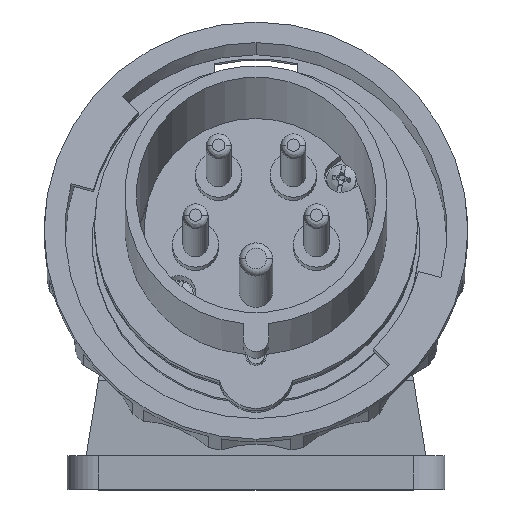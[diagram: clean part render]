
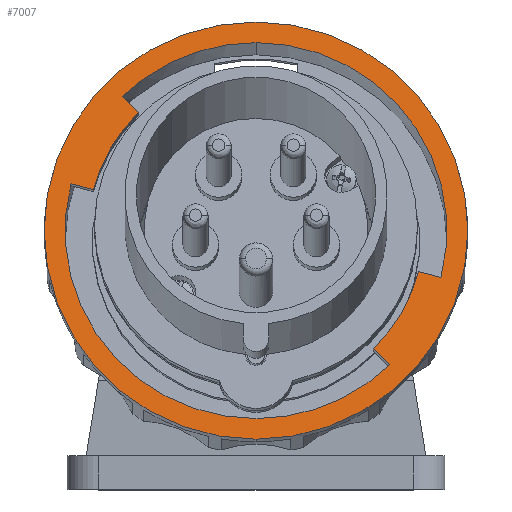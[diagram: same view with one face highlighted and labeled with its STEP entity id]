
A CAD part, top view. The second image highlights one B-rep face of the part: STEP entity #7007.
In plain terms, the highlighted planar face has unit normal (0, 0.174, 0.985).
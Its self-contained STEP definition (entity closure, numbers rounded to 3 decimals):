
#6043=CARTESIAN_POINT('',(0.,61.641,54.758));
#6044=DIRECTION('',(0.,-0.174,-0.985));
#6045=DIRECTION('',(0.,0.985,-0.174));
#6046=AXIS2_PLACEMENT_3D('',#6043,#6044,#6045);
#6048=CARTESIAN_POINT('',(0.,61.641,54.758));
#6049=DIRECTION('',(0.,-0.174,-0.985));
#6050=DIRECTION('',(0.,-0.985,0.174));
#6051=AXIS2_PLACEMENT_3D('',#6048,#6049,#6050);
#6053=CARTESIAN_POINT('',(0.,61.641,54.758));
#6054=DIRECTION('',(0.,0.174,0.985));
#6055=DIRECTION('',(0.,0.985,-0.174));
#6056=AXIS2_PLACEMENT_3D('',#6053,#6054,#6055);
#6058=DIRECTION('',(0.707,-0.696,0.123));
#6059=VECTOR('',#6058,5.5);
#6060=CARTESIAN_POINT('',(-31.844,93.647,49.114));
#6061=LINE('',#6060,#6059);
#6062=CARTESIAN_POINT('',(0.,61.641,54.758));
#6063=DIRECTION('',(0.,0.174,0.985));
#6064=DIRECTION('',(-0.699,0.704,-0.124));
#6065=AXIS2_PLACEMENT_3D('',#6062,#6063,#6064);
#6067=DIRECTION('',(-0.966,0.255,-0.045));
#6068=VECTOR('',#6067,5.5);
#6069=CARTESIAN_POINT('',(-38.754,71.395,53.038));
#6070=LINE('',#6069,#6068);
#6071=CARTESIAN_POINT('',(0.,61.641,54.758));
#6072=DIRECTION('',(0.,0.174,0.985));
#6073=DIRECTION('',(-0.969,0.245,-0.043));
#6074=AXIS2_PLACEMENT_3D('',#6071,#6072,#6073);
#6076=CARTESIAN_POINT('',(0.,61.641,54.758));
#6077=DIRECTION('',(0.,0.174,0.985));
#6078=DIRECTION('',(0.,-0.985,0.174));
#6079=AXIS2_PLACEMENT_3D('',#6076,#6077,#6078);
#6081=DIRECTION('',(-0.707,0.696,-0.123));
#6082=VECTOR('',#6081,5.5);
#6083=CARTESIAN_POINT('',(31.844,29.635,60.401));
#6084=LINE('',#6083,#6082);
#6085=CARTESIAN_POINT('',(0.,61.641,54.758));
#6086=DIRECTION('',(0.,0.174,0.985));
#6087=DIRECTION('',(0.699,-0.704,0.124));
#6088=AXIS2_PLACEMENT_3D('',#6085,#6086,#6087);
#6090=DIRECTION('',(0.966,-0.255,0.045));
#6091=VECTOR('',#6090,5.5);
#6092=CARTESIAN_POINT('',(38.754,51.887,56.477));
#6093=LINE('',#6092,#6091);
#6094=CARTESIAN_POINT('',(0.,61.641,54.758));
#6095=DIRECTION('',(0.,0.174,0.985));
#6096=DIRECTION('',(0.969,-0.245,0.043));
#6097=AXIS2_PLACEMENT_3D('',#6094,#6095,#6096);
#6707=CARTESIAN_POINT('',(44.067,50.485,56.725));
#6709=VERTEX_POINT('',#6707);
#6714=CARTESIAN_POINT('',(31.844,29.635,60.401));
#6715=VERTEX_POINT('',#6714);
#6716=CARTESIAN_POINT('',(0.,16.832,
62.659));
#6717=VERTEX_POINT('',#6716);
#6722=CARTESIAN_POINT('',(0.,106.45,
46.857));
#6723=VERTEX_POINT('',#6722);
#6726=CARTESIAN_POINT('',(38.754,51.887,56.477));
#6727=VERTEX_POINT('',#6726);
#6729=CARTESIAN_POINT('',(27.954,33.465,59.726));
#6730=VERTEX_POINT('',#6729);
#6733=CARTESIAN_POINT('',(0.,111.374,45.988));
#6734=CARTESIAN_POINT('',(0.,11.908,63.527));
#6735=VERTEX_POINT('',#6733);
#6736=VERTEX_POINT('',#6734);
#6737=CARTESIAN_POINT('',(-31.844,93.647,49.114));
#6738=VERTEX_POINT('',#6737);
#6739=CARTESIAN_POINT('',(-27.954,89.817,49.789));
#6740=VERTEX_POINT('',#6739);
#6741=CARTESIAN_POINT('',(-38.754,71.395,53.038));
#6742=VERTEX_POINT('',#6741);
#6743=CARTESIAN_POINT('',(-44.067,72.797,52.791));
#6744=VERTEX_POINT('',#6743);
#6978=CARTESIAN_POINT('',(0.,61.641,54.758));
#6979=DIRECTION('',(0.,0.174,0.985));
#6980=DIRECTION('',(0.,-0.985,0.174));
#6981=AXIS2_PLACEMENT_3D('',#6978,#6979,#6980);
#6982=PLANE('',#6981);
#6984=ORIENTED_EDGE('',*,*,#6983,.T.);
#6986=ORIENTED_EDGE('',*,*,#6985,.T.);
#6987=EDGE_LOOP('',(#6984,#6986));
#6988=FACE_OUTER_BOUND('',#6987,.F.);
#6990=ORIENTED_EDGE('',*,*,#6989,.T.);
#6992=ORIENTED_EDGE('',*,*,#6991,.T.);
#6994=ORIENTED_EDGE('',*,*,#6993,.T.);
#6996=ORIENTED_EDGE('',*,*,#6995,.T.);
#6998=ORIENTED_EDGE('',*,*,#6997,.T.);
#6999=ORIENTED_EDGE('',*,*,#6920,.T.);
#7001=ORIENTED_EDGE('',*,*,#7000,.T.);
#7002=ORIENTED_EDGE('',*,*,#6969,.T.);
#7003=ORIENTED_EDGE('',*,*,#6941,.T.);
#7004=ORIENTED_EDGE('',*,*,#6928,.T.);
#7005=EDGE_LOOP('',(#6990,#6992,#6994,#6996,#6998,#6999,#7001,#7002,#7003,
#7004));
#7006=FACE_BOUND('',#7005,.F.);
#7007=ADVANCED_FACE('',(#6988,#7006),#6982,.T.);
#6047=CIRCLE('',#6046,50.5);
#6052=CIRCLE('',#6051,50.5);
#6057=CIRCLE('',#6056,45.5);
#6066=CIRCLE('',#6065,40.);
#6075=CIRCLE('',#6074,45.5);
#6080=CIRCLE('',#6079,45.5);
#6089=CIRCLE('',#6088,40.);
#6098=CIRCLE('',#6097,45.5);
#6920=EDGE_CURVE('',#6717,#6715,#6080,.T.);
#6928=EDGE_CURVE('',#6709,#6723,#6098,.T.);
#6941=EDGE_CURVE('',#6727,#6709,#6093,.T.);
#6969=EDGE_CURVE('',#6730,#6727,#6089,.T.);
#6983=EDGE_CURVE('',#6735,#6736,#6047,.T.);
#6985=EDGE_CURVE('',#6736,#6735,#6052,.T.);
#6989=EDGE_CURVE('',#6723,#6738,#6057,.T.);
#6991=EDGE_CURVE('',#6738,#6740,#6061,.T.);
#6993=EDGE_CURVE('',#6740,#6742,#6066,.T.);
#6995=EDGE_CURVE('',#6742,#6744,#6070,.T.);
#6997=EDGE_CURVE('',#6744,#6717,#6075,.T.);
#7000=EDGE_CURVE('',#6715,#6730,#6084,.T.);
